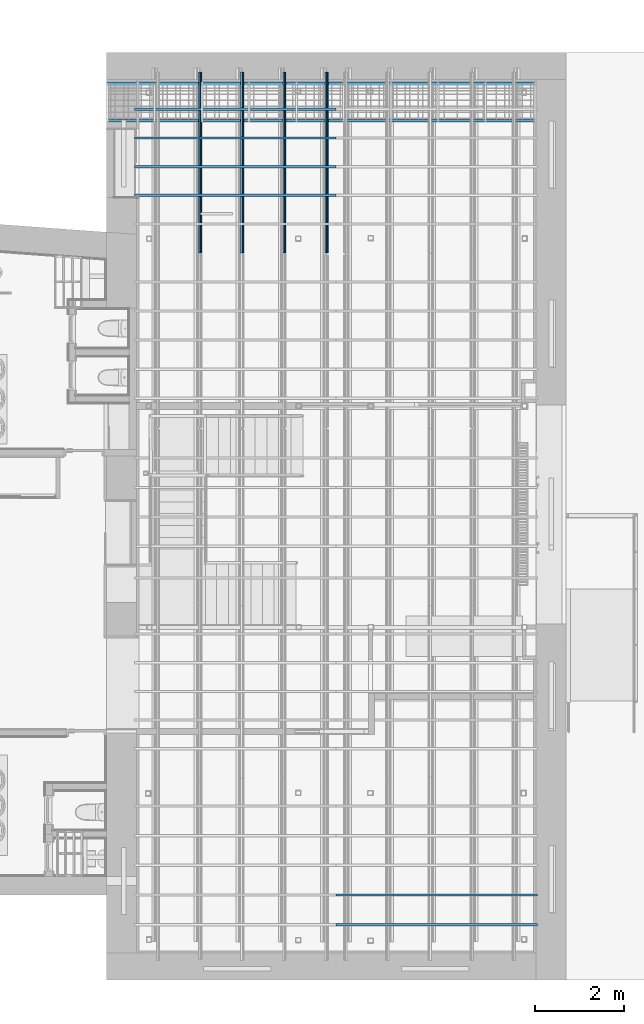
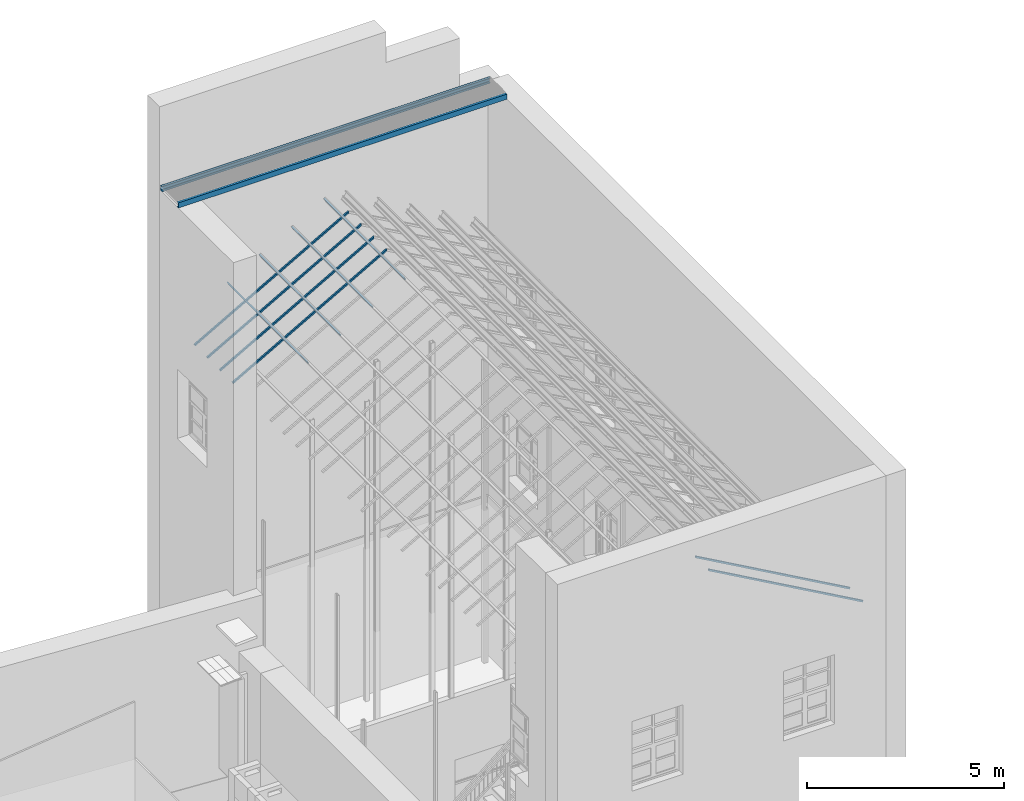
# One storey, part 22 of 75: 12 beams.
"""IFC2X3 building model written with IfcOpenShell, lengths in metres."""

from ifc_helpers import new_model, entity, si_unit, converted_unit, derived_unit, direction, frame, frame_2d, origin, origin_2d_with_axis, place, context, subcontext, project, spatial, polyline, circle_curve, parameter, trimmed, segment, composite_curve, rectangle, outline, extrude, clip, halfspace, material, type_object, element, save


model = new_model("IFC2X3")

# Units and contexts
model_context = context("Model", 3, precision=1e-05, world=origin(), true_north=direction((6.12303176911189e-17, 1.0)))
body_context = subcontext(model_context, "Body", "Model", "MODEL_VIEW")
ifc_project = project(units=[si_unit("LENGTHUNIT", "METRE"), si_unit("AREAUNIT", "SQUARE_METRE"), si_unit("VOLUMEUNIT", "CUBIC_METRE"), converted_unit("PLANEANGLEUNIT", "DEGREE", entity("IfcRatioMeasure", 0.0174532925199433), si_unit("PLANEANGLEUNIT", "RADIAN"), dimensions=[0, 0, 0, 0, 0, 0, 0]), si_unit("MASSUNIT", "GRAM", prefix="KILO"), derived_unit("MASSDENSITYUNIT", [(si_unit("MASSUNIT", "GRAM", prefix="KILO"), 1), (si_unit("LENGTHUNIT", "METRE"), -3)]), derived_unit("MOMENTOFINERTIAUNIT", [(si_unit("LENGTHUNIT", "METRE"), 4)]), si_unit("TIMEUNIT", "SECOND"), si_unit("FREQUENCYUNIT", "HERTZ"), si_unit("THERMODYNAMICTEMPERATUREUNIT", "DEGREE_CELSIUS"), derived_unit("THERMALTRANSMITTANCEUNIT", [(si_unit("MASSUNIT", "GRAM", prefix="KILO"), 1), (si_unit("THERMODYNAMICTEMPERATUREUNIT", "KELVIN"), -1), (si_unit("TIMEUNIT", "SECOND"), -3)]), derived_unit("VOLUMETRICFLOWRATEUNIT", [(si_unit("LENGTHUNIT", "METRE"), 3), (si_unit("TIMEUNIT", "SECOND"), -1)]), si_unit("ELECTRICCURRENTUNIT", "AMPERE"), si_unit("ELECTRICVOLTAGEUNIT", "VOLT"), si_unit("POWERUNIT", "WATT"), si_unit("FORCEUNIT", "NEWTON", prefix="KILO"), si_unit("ILLUMINANCEUNIT", "LUX"), si_unit("LUMINOUSFLUXUNIT", "LUMEN"), si_unit("LUMINOUSINTENSITYUNIT", "CANDELA"), derived_unit("USERDEFINED", [(si_unit("MASSUNIT", "GRAM", prefix="KILO"), -1), (si_unit("LENGTHUNIT", "METRE"), -2), (si_unit("TIMEUNIT", "SECOND"), 3), (si_unit("LUMINOUSFLUXUNIT", "LUMEN"), 1)]), derived_unit("LINEARVELOCITYUNIT", [(si_unit("LENGTHUNIT", "METRE"), 1), (si_unit("TIMEUNIT", "SECOND"), -1)]), si_unit("PRESSUREUNIT", "PASCAL"), derived_unit("USERDEFINED", [(si_unit("LENGTHUNIT", "METRE"), -2), (si_unit("MASSUNIT", "GRAM", prefix="KILO"), 1), (si_unit("TIMEUNIT", "SECOND"), -2)]), derived_unit("LINEARFORCEUNIT", [(si_unit("MASSUNIT", "GRAM", prefix="KILO"), 1), (si_unit("LENGTHUNIT", "METRE"), 1), (si_unit("TIMEUNIT", "SECOND"), -2), (si_unit("LENGTHUNIT", "METRE"), -1)]), derived_unit("PLANARFORCEUNIT", [(si_unit("MASSUNIT", "GRAM", prefix="KILO"), 1), (si_unit("LENGTHUNIT", "METRE"), 1), (si_unit("TIMEUNIT", "SECOND"), -2), (si_unit("LENGTHUNIT", "METRE"), -2)])], contexts=[model_context])

# Site, building, storey
site_placement = place(None, origin())
site = spatial("IfcSite", under=ifc_project, at=site_placement, Name="Superficie", CompositionType="ELEMENT")
building_placement = place(site_placement, origin())
building = spatial("IfcBuilding", under=site, at=building_placement, Name="Telegestiones", CompositionType="ELEMENT")
storey_placement = place(building_placement, origin())
storey = spatial("IfcBuildingStorey", under=building, at=storey_placement, Name="Nivel 0_NPT", CompositionType="ELEMENT", Elevation=0.0)

# Beams
ifc_material_1 = material(Name="Metal - Acero - 345 MPa")
beam_type_1 = type_object("IfcBeamType", Name="IPN - Secciones en I con alas cónicas:IPN 80", PredefinedType="NOTDEFINED")
beam_1_placement = place(storey_placement, frame((10.2618424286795, 9.84680722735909, 15.6110271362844), z_axis=(0.0, 0.0, 1.0), x_axis=(0.0, 1.0, 0.0)))
element("IfcBeam", 1, at=beam_1_placement, inside=storey, type_object=beam_type_1, material=ifc_material_1, Name="IPN - Secciones en I con alas cónicas:IPN 80", ObjectType="IPN - Secciones en I con alas cónicas:IPN 80", context=body_context, shape_type="SweptSolid", body=[
    extrude(outline(composite_curve([segment(polyline([(-0.0209999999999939, -0.040000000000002), (0.0210000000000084, -0.040000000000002)]), True, "CONTINUOUS"), segment(polyline([(0.0210000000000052, -0.0399999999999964), (0.0210000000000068, -0.037570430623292)]), True, "CONTINUOUS"), segment(trimmed(circle_curve(frame_2d((0.0187000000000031, -0.0375704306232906), x_axis=(1.0, 0.0)), 0.00230000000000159), [parameter(0.0)], [parameter(82.0303896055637)], True, "PARAMETER"), True, "CONTINUOUS"), segment(polyline([(0.0190188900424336, -0.0352926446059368), (0.00530927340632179, -0.0333732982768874)]), True, "CONTINUOUS"), segment(trimmed(circle_curve(frame_2d((0.00585000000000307, -0.0295109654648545), x_axis=(-0.138647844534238, -0.990341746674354)), 0.0038999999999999), [parameter(277.969610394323)], [parameter(0.0)], True, "PARAMETER"), False, "CONTINUOUS"), segment(polyline([(0.00195000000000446, -0.0295109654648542), (0.00194999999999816, 0.0295109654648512)]), True, "CONTINUOUS"), segment(trimmed(circle_curve(frame_2d((0.0058499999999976, 0.0295109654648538), x_axis=(-1.0, 0.0)), 0.00390000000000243), [parameter(277.969610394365)], [parameter(0.0)], True, "PARAMETER"), False, "CONTINUOUS"), segment(polyline([(0.0053092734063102, 0.0333732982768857), (0.0190188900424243, 0.0352926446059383)]), True, "CONTINUOUS"), segment(trimmed(circle_curve(frame_2d((0.0186999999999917, 0.0375704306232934), x_axis=(0.138647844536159, -0.990341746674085)), 0.00230000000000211), [parameter(0.0)], [parameter(82.0303896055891)], True, "PARAMETER"), True, "CONTINUOUS"), segment(polyline([(0.0209999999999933, 0.0375704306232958), (0.020999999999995, 0.0400000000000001)]), True, "CONTINUOUS"), segment(polyline([(0.0209999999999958, 0.0400000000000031), (-0.0210000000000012, 0.0399999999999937)]), True, "CONTINUOUS"), segment(polyline([(-0.0210000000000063, 0.0399999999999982), (-0.0210000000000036, 0.0375704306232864)]), True, "CONTINUOUS"), segment(trimmed(circle_curve(frame_2d((-0.0187000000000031, 0.0375704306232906), x_axis=(-1.0, 0.0)), 0.00230000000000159), [parameter(0.0)], [parameter(82.0303896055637)], True, "PARAMETER"), True, "CONTINUOUS"), segment(polyline([(-0.0190188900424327, 0.0352926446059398), (-0.00530927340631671, 0.0333732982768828)]), True, "CONTINUOUS"), segment(trimmed(circle_curve(frame_2d((-0.00585000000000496, 0.0295109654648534), x_axis=(0.138647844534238, 0.990341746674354)), 0.0038999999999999), [parameter(277.969610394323)], [parameter(0.0)], True, "PARAMETER"), False, "CONTINUOUS"), segment(polyline([(-0.00195000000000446, 0.0295109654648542), (-0.00194999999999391, -0.0295109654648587)]), True, "CONTINUOUS"), segment(trimmed(circle_curve(frame_2d((-0.00584999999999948, -0.0295109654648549), x_axis=(1.0, 0.0)), 0.00390000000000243), [parameter(277.969610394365)], [parameter(0.0)], True, "PARAMETER"), False, "CONTINUOUS"), segment(polyline([(-0.00530927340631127, -0.0333732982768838), (-0.0190188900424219, -0.0352926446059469)]), True, "CONTINUOUS"), segment(trimmed(circle_curve(frame_2d((-0.0186999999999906, -0.0375704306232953), x_axis=(-0.138647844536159, 0.990341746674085)), 0.00230000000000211), [parameter(0.0)], [parameter(82.0303896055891)], True, "PARAMETER"), True, "CONTINUOUS"), segment(polyline([(-0.0209999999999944, -0.0375704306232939), (-0.0209999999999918, -0.0400000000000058)]), True, "CONTINUOUS")], self_intersect=False)), frame((0.013000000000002, -0.0245925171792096, -0.0435339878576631), z_axis=(1.0, 0.0, 0.0), x_axis=(0.0, -0.870679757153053, 0.491850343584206)), (0.0, 0.0, 1.0), 4.05180000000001),
])
beam_2_placement = place(storey_placement, frame((9.31797115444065, 9.84680722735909, 15.0778306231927), z_axis=(0.0, 0.0, 1.0), x_axis=(0.0, 1.0, 0.0)))
element("IfcBeam", 2, at=beam_2_placement, inside=storey, type_object=beam_type_1, material=ifc_material_1, Name="IPN - Secciones en I con alas cónicas:IPN 80", ObjectType="IPN - Secciones en I con alas cónicas:IPN 80", context=body_context, shape_type="SweptSolid", body=[
    extrude(outline(composite_curve([segment(polyline([(-0.0209999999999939, -0.040000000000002), (0.0210000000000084, -0.040000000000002)]), True, "CONTINUOUS"), segment(polyline([(0.0210000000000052, -0.0399999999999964), (0.0210000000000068, -0.037570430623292)]), True, "CONTINUOUS"), segment(trimmed(circle_curve(frame_2d((0.0187000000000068, -0.0375704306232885), x_axis=(1.0, 0.0)), 0.00229999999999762), [parameter(0.0)], [parameter(82.0303896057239)], True, "PARAMETER"), True, "CONTINUOUS"), segment(polyline([(0.0190188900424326, -0.0352926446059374), (0.00530927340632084, -0.0333732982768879)]), True, "CONTINUOUS"), segment(trimmed(circle_curve(frame_2d((0.00585000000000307, -0.0295109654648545), x_axis=(-0.138647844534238, -0.990341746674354)), 0.00389999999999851), [parameter(277.969610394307)], [parameter(0.0)], True, "PARAMETER"), False, "CONTINUOUS"), segment(polyline([(0.00195000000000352, -0.0295109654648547), (0.00194999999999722, 0.0295109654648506)]), True, "CONTINUOUS"), segment(trimmed(circle_curve(frame_2d((0.00584999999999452, 0.0295109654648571), x_axis=(-1.0, 0.0)), 0.00389999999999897), [parameter(277.969610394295)], [parameter(0.0)], True, "PARAMETER"), False, "CONTINUOUS"), segment(polyline([(0.0053092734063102, 0.0333732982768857), (0.0190188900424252, 0.0352926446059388)]), True, "CONTINUOUS"), segment(trimmed(circle_curve(frame_2d((0.0186999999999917, 0.0375704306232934), x_axis=(0.138647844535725, -0.990341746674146)), 0.00230000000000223), [parameter(0.0)], [parameter(82.0303896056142)], True, "PARAMETER"), True, "CONTINUOUS"), segment(polyline([(0.0209999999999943, 0.0375704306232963), (0.0209999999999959, 0.0400000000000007)]), True, "CONTINUOUS"), segment(polyline([(0.0209999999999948, 0.0400000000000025), (-0.0210000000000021, 0.0399999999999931)]), True, "CONTINUOUS"), segment(polyline([(-0.0210000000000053, 0.0399999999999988), (-0.0210000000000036, 0.0375704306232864)]), True, "CONTINUOUS"), segment(trimmed(circle_curve(frame_2d((-0.0187000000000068, 0.0375704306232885), x_axis=(-1.0, 0.0)), 0.00229999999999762), [parameter(0.0)], [parameter(82.0303896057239)], True, "PARAMETER"), True, "CONTINUOUS"), segment(polyline([(-0.0190188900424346, 0.0352926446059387), (-0.00530927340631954, 0.0333732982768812)]), True, "CONTINUOUS"), segment(trimmed(circle_curve(frame_2d((-0.00585000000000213, 0.029510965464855), x_axis=(0.138647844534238, 0.990341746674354)), 0.00389999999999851), [parameter(277.969610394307)], [parameter(0.0)], True, "PARAMETER"), False, "CONTINUOUS"), segment(polyline([(-0.00195000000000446, 0.0295109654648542), (-0.00194999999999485, -0.0295109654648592)]), True, "CONTINUOUS"), segment(trimmed(circle_curve(frame_2d((-0.00584999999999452, -0.0295109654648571), x_axis=(1.0, 0.0)), 0.00389999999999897), [parameter(277.969610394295)], [parameter(0.0)], True, "PARAMETER"), False, "CONTINUOUS"), segment(polyline([(-0.00530927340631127, -0.0333732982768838), (-0.0190188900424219, -0.0352926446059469)]), True, "CONTINUOUS"), segment(trimmed(circle_curve(frame_2d((-0.0186999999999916, -0.0375704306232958), x_axis=(-0.138647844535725, 0.990341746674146)), 0.00230000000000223), [parameter(0.0)], [parameter(82.0303896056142)], True, "PARAMETER"), True, "CONTINUOUS"), segment(polyline([(-0.0209999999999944, -0.0375704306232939), (-0.0209999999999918, -0.0400000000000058)]), True, "CONTINUOUS")], self_intersect=False)), frame((0.0129999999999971, -0.0245925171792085, -0.0435339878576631), z_axis=(1.0, 0.0, 0.0), x_axis=(0.0, -0.870679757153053, 0.491850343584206)), (0.0, 0.0, 1.0), 4.05180000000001),
])
beam_3_placement = place(storey_placement, frame((8.37409988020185, 9.84680722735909, 14.5446341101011), z_axis=(0.0, 0.0, 1.0), x_axis=(0.0, 1.0, 0.0)))
element("IfcBeam", 3, at=beam_3_placement, inside=storey, type_object=beam_type_1, material=ifc_material_1, Name="IPN - Secciones en I con alas cónicas:IPN 80", ObjectType="IPN - Secciones en I con alas cónicas:IPN 80", context=body_context, shape_type="SweptSolid", body=[
    extrude(outline(composite_curve([segment(polyline([(-0.0209999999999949, -0.0400000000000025), (0.0210000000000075, -0.0400000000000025)]), True, "CONTINUOUS"), segment(polyline([(0.0210000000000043, -0.0399999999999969), (0.0210000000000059, -0.0375704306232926)]), True, "CONTINUOUS"), segment(trimmed(circle_curve(frame_2d((0.0187000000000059, -0.037570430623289), x_axis=(1.0, 0.0)), 0.00229999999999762), [parameter(0.0)], [parameter(82.0303896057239)], True, "PARAMETER"), True, "CONTINUOUS"), segment(polyline([(0.0190188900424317, -0.0352926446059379), (0.0053092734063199, -0.0333732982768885)]), True, "CONTINUOUS"), segment(trimmed(circle_curve(frame_2d((0.00585000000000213, -0.029510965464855), x_axis=(-0.138647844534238, -0.990341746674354)), 0.00389999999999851), [parameter(277.969610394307)], [parameter(0.0)], True, "PARAMETER"), False, "CONTINUOUS"), segment(polyline([(0.00195000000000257, -0.0295109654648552), (0.00194999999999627, 0.0295109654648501)]), True, "CONTINUOUS"), segment(trimmed(circle_curve(frame_2d((0.00584999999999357, 0.0295109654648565), x_axis=(-1.0, 0.0)), 0.00389999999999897), [parameter(277.969610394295)], [parameter(0.0)], True, "PARAMETER"), False, "CONTINUOUS"), segment(polyline([(0.00530927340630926, 0.0333732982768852), (0.0190188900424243, 0.0352926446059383)]), True, "CONTINUOUS"), segment(trimmed(circle_curve(frame_2d((0.0186999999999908, 0.0375704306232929), x_axis=(0.138647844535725, -0.990341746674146)), 0.00230000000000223), [parameter(0.0)], [parameter(82.0303896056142)], True, "PARAMETER"), True, "CONTINUOUS"), segment(polyline([(0.0209999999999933, 0.0375704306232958), (0.020999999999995, 0.0400000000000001)]), True, "CONTINUOUS"), segment(polyline([(0.0209999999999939, 0.040000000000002), (-0.0210000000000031, 0.0399999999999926)]), True, "CONTINUOUS"), segment(polyline([(-0.0210000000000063, 0.0399999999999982), (-0.0210000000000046, 0.0375704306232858)]), True, "CONTINUOUS"), segment(trimmed(circle_curve(frame_2d((-0.0187000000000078, 0.0375704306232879), x_axis=(-1.0, 0.0)), 0.00229999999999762), [parameter(0.0)], [parameter(82.0303896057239)], True, "PARAMETER"), True, "CONTINUOUS"), segment(polyline([(-0.0190188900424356, 0.0352926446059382), (-0.00530927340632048, 0.0333732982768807)]), True, "CONTINUOUS"), segment(trimmed(circle_curve(frame_2d((-0.00585000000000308, 0.0295109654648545), x_axis=(0.138647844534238, 0.990341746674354)), 0.00389999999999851), [parameter(277.969610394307)], [parameter(0.0)], True, "PARAMETER"), False, "CONTINUOUS"), segment(polyline([(-0.0019500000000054, 0.0295109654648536), (-0.00194999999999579, -0.0295109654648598)]), True, "CONTINUOUS"), segment(trimmed(circle_curve(frame_2d((-0.00584999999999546, -0.0295109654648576), x_axis=(1.0, 0.0)), 0.00389999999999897), [parameter(277.969610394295)], [parameter(0.0)], True, "PARAMETER"), False, "CONTINUOUS"), segment(polyline([(-0.00530927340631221, -0.0333732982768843), (-0.0190188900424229, -0.0352926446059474)]), True, "CONTINUOUS"), segment(trimmed(circle_curve(frame_2d((-0.0186999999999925, -0.0375704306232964), x_axis=(-0.138647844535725, 0.990341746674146)), 0.00230000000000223), [parameter(0.0)], [parameter(82.0303896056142)], True, "PARAMETER"), True, "CONTINUOUS"), segment(polyline([(-0.0209999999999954, -0.0375704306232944), (-0.0209999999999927, -0.0400000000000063)]), True, "CONTINUOUS")], self_intersect=False)), frame((0.0129999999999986, -0.0245925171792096, -0.0435339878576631), z_axis=(1.0, 0.0, 0.0), x_axis=(0.0, -0.870679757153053, 0.491850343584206)), (0.0, 0.0, 1.0), 4.05180000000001),
])
beam_4_placement = place(storey_placement, frame((7.43022860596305, 9.84680722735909, 14.0114375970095), z_axis=(0.0, 0.0, 1.0), x_axis=(0.0, 1.0, 0.0)))
element("IfcBeam", 4, at=beam_4_placement, inside=storey, type_object=beam_type_1, material=ifc_material_1, Name="IPN - Secciones en I con alas cónicas:IPN 80", ObjectType="IPN - Secciones en I con alas cónicas:IPN 80", context=body_context, shape_type="SweptSolid", body=[
    extrude(outline(composite_curve([segment(polyline([(-0.0209999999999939, -0.040000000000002), (0.0210000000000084, -0.040000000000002)]), True, "CONTINUOUS"), segment(polyline([(0.0210000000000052, -0.0399999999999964), (0.0210000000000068, -0.037570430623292)]), True, "CONTINUOUS"), segment(trimmed(circle_curve(frame_2d((0.0187000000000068, -0.0375704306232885), x_axis=(1.0, 0.0)), 0.00229999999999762), [parameter(0.0)], [parameter(82.0303896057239)], True, "PARAMETER"), True, "CONTINUOUS"), segment(polyline([(0.0190188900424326, -0.0352926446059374), (0.00530927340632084, -0.0333732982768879)]), True, "CONTINUOUS"), segment(trimmed(circle_curve(frame_2d((0.00585000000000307, -0.0295109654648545), x_axis=(-0.138647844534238, -0.990341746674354)), 0.00389999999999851), [parameter(277.969610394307)], [parameter(0.0)], True, "PARAMETER"), False, "CONTINUOUS"), segment(polyline([(0.00195000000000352, -0.0295109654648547), (0.00194999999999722, 0.0295109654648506)]), True, "CONTINUOUS"), segment(trimmed(circle_curve(frame_2d((0.00584999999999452, 0.0295109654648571), x_axis=(-1.0, 0.0)), 0.00389999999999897), [parameter(277.969610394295)], [parameter(0.0)], True, "PARAMETER"), False, "CONTINUOUS"), segment(polyline([(0.0053092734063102, 0.0333732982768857), (0.0190188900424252, 0.0352926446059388)]), True, "CONTINUOUS"), segment(trimmed(circle_curve(frame_2d((0.0186999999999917, 0.0375704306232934), x_axis=(0.138647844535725, -0.990341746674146)), 0.00230000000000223), [parameter(0.0)], [parameter(82.0303896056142)], True, "PARAMETER"), True, "CONTINUOUS"), segment(polyline([(0.0209999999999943, 0.0375704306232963), (0.0209999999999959, 0.0400000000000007)]), True, "CONTINUOUS"), segment(polyline([(0.0209999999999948, 0.0400000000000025), (-0.0210000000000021, 0.0399999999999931)]), True, "CONTINUOUS"), segment(polyline([(-0.0210000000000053, 0.0399999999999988), (-0.0210000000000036, 0.0375704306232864)]), True, "CONTINUOUS"), segment(trimmed(circle_curve(frame_2d((-0.0187000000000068, 0.0375704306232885), x_axis=(-1.0, 0.0)), 0.00229999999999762), [parameter(0.0)], [parameter(82.0303896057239)], True, "PARAMETER"), True, "CONTINUOUS"), segment(polyline([(-0.0190188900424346, 0.0352926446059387), (-0.00530927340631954, 0.0333732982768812)]), True, "CONTINUOUS"), segment(trimmed(circle_curve(frame_2d((-0.00585000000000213, 0.029510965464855), x_axis=(0.138647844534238, 0.990341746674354)), 0.00389999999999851), [parameter(277.969610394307)], [parameter(0.0)], True, "PARAMETER"), False, "CONTINUOUS"), segment(polyline([(-0.00195000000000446, 0.0295109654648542), (-0.00194999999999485, -0.0295109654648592)]), True, "CONTINUOUS"), segment(trimmed(circle_curve(frame_2d((-0.00584999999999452, -0.0295109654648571), x_axis=(1.0, 0.0)), 0.00389999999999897), [parameter(277.969610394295)], [parameter(0.0)], True, "PARAMETER"), False, "CONTINUOUS"), segment(polyline([(-0.00530927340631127, -0.0333732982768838), (-0.0190188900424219, -0.0352926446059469)]), True, "CONTINUOUS"), segment(trimmed(circle_curve(frame_2d((-0.0186999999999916, -0.0375704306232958), x_axis=(-0.138647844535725, 0.990341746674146)), 0.00230000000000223), [parameter(0.0)], [parameter(82.0303896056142)], True, "PARAMETER"), True, "CONTINUOUS"), segment(polyline([(-0.0209999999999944, -0.0375704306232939), (-0.0209999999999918, -0.0400000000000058)]), True, "CONTINUOUS")], self_intersect=False)), frame((0.0130000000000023, -0.0245925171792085, -0.0435339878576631), z_axis=(1.0, 0.0, 0.0), x_axis=(0.0, -0.870679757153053, 0.491850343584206)), (0.0, 0.0, 1.0), 4.05180000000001),
])
beam_type_2 = type_object("IfcBeamType", Name="U-Canales de ala paralela:UPE160", PredefinedType="NOTDEFINED")
beam_5_placement = place(storey_placement, frame((5.35428977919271, 13.6634072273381, 17.7)))
element("IfcBeam", 5, at=beam_5_placement, inside=storey, type_object=beam_type_2, material=ifc_material_1, Name="U-Canales de ala paralela:UPE160", ObjectType="U-Canales de ala paralela:UPE160", context=body_context, shape_type="SweptSolid", body=[
    extrude(outline(composite_curve([segment(polyline([(-0.0800000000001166, -0.0367999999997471), (-0.0705000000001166, -0.0367999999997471)]), True, "CONTINUOUS"), segment(polyline([(-0.0705000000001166, -0.0367999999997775), (-0.0704999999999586, 0.0127000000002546)]), True, "CONTINUOUS"), segment(trimmed(circle_curve(frame_2d((-0.0554999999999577, 0.0127000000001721), x_axis=(-1.0, 0.0)), 0.0150000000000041), [parameter(270.000000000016)], [parameter(0.0)], True, "PARAMETER"), False, "CONTINUOUS"), segment(polyline([(-0.055499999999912, 0.0277000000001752), (0.0555000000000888, 0.0276999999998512)]), True, "CONTINUOUS"), segment(trimmed(circle_curve(frame_2d((0.0555000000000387, 0.0126999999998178), x_axis=(0.0, 1.0)), 0.0150000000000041), [parameter(270.000000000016)], [parameter(0.0)], True, "PARAMETER"), False, "CONTINUOUS"), segment(polyline([(0.0705000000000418, 0.0126999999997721), (0.0704999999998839, -0.0368000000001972)]), True, "CONTINUOUS"), segment(polyline([(0.0704999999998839, -0.0368000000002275), (0.0799999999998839, -0.0368000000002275)]), True, "CONTINUOUS"), segment(polyline([(0.0799999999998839, -0.0368000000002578), (0.0800000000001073, 0.0331999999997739)]), True, "CONTINUOUS"), segment(polyline([(0.0800000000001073, 0.0331999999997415), (-0.0799999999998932, 0.0332000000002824)]), True, "CONTINUOUS"), segment(polyline([(-0.0799999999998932, 0.0332000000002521), (-0.0800000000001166, -0.0367999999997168)]), True, "CONTINUOUS")], self_intersect=False)), frame((0.000261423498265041, -0.0105000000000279, 0.0799999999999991), z_axis=(1.0, 0.0, 0.0), x_axis=(0.0, 0.0, -1.0)), (0.0, 0.0, 1.0), 9.60999999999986),
])
beam_6_placement = place(storey_placement, frame((5.35428977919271, 12.8084072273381, 17.7)))
element("IfcBeam", 6, at=beam_6_placement, inside=storey, type_object=beam_type_2, material=ifc_material_1, Name="U-Canales de ala paralela:UPE160", ObjectType="U-Canales de ala paralela:UPE160", context=body_context, shape_type="SweptSolid", body=[
    extrude(outline(composite_curve([segment(polyline([(-0.0799999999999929, -0.0332000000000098), (0.0800000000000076, -0.0332000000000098)]), True, "CONTINUOUS"), segment(polyline([(0.0800000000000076, -0.0331999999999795), (0.0799999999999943, 0.0367999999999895)]), True, "CONTINUOUS"), segment(polyline([(0.0799999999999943, 0.0368000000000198), (0.0704999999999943, 0.0367999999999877)]), True, "CONTINUOUS"), segment(polyline([(0.0704999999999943, 0.0368000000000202), (0.0705000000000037, -0.0127000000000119)]), True, "CONTINUOUS"), segment(trimmed(circle_curve(frame_2d((0.0555000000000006, -0.0127000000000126), x_axis=(1.0, 0.0)), 0.0150000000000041), [parameter(270.000000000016)], [parameter(0.0)], True, "PARAMETER"), False, "CONTINUOUS"), segment(polyline([(0.0555000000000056, -0.0276999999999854), (-0.0554999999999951, -0.0277000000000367)]), True, "CONTINUOUS"), segment(trimmed(circle_curve(frame_2d((-0.0554999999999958, -0.0127000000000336), x_axis=(0.0, -1.0)), 0.0150000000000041), [parameter(270.000000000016)], [parameter(0.0)], True, "PARAMETER"), False, "CONTINUOUS"), segment(polyline([(-0.0704999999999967, -0.0127000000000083), (-0.0705000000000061, 0.036799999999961)]), True, "CONTINUOUS"), segment(polyline([(-0.0705000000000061, 0.0367999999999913), (-0.0800000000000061, 0.0367999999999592)]), True, "CONTINUOUS"), segment(polyline([(-0.0800000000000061, 0.0367999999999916), (-0.0799999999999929, -0.0332000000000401)]), True, "CONTINUOUS")], self_intersect=False)), frame((0.0, 0.0104999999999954, 0.0799999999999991), z_axis=(1.0, 0.0, 0.0), x_axis=(0.0, 0.0, -1.0)), (0.0, 0.0, 1.0), 9.61074697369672),
])
ifc_material_2 = material(Name="Madera - Madera de construcción")
beam_type_3 = type_object("IfcBeamType", Name="Madera:50x50mm", PredefinedType="NOTDEFINED")
beam_7_placement = place(storey_placement, frame((6.01059937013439, 12.4336072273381, 13.2094835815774), z_axis=(-0.491850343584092, 0.0, 0.870679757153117), x_axis=(0.870679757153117, 0.0, 0.491850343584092)))
element("IfcBeam", 7, at=beam_7_placement, inside=storey, type_object=beam_type_3, material=ifc_material_2, Name="Madera:50x50mm", ObjectType="Madera:50x50mm", context=body_context, shape_type="SweptSolid", body=[
    clip(extrude(rectangle(XDim=0.0500000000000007, YDim=0.0500000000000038, at=frame_2d((-3.36189409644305e-15, 1.08246744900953e-15), x_axis=(1.0, 0.0))), frame((-0.0851437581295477, 0.0, -0.115000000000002), z_axis=(1.0, 0.0, 0.0), x_axis=(0.0, 0.0, -1.0)), (0.0, 0.0, 1.0), 5.18302027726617), halfspace(frame((5.06963132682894, 0.0, -0.139999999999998), z_axis=(0.870679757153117, 0.0, -0.491850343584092), x_axis=(0.0, -1.0, 0.0)), False)),
])
beam_8_placement = place(storey_placement, frame((6.01059937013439, 13.0761072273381, 13.2094835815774), z_axis=(-0.491850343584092, 0.0, 0.870679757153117), x_axis=(0.870679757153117, 0.0, 0.491850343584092)))
element("IfcBeam", 8, at=beam_8_placement, inside=storey, type_object=beam_type_3, material=ifc_material_2, Name="Madera:50x50mm", ObjectType="Madera:50x50mm", context=body_context, shape_type="SweptSolid", body=[
    clip(extrude(rectangle(XDim=0.0500000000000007, YDim=0.0500000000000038, at=frame_2d((2.67147415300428e-16, 1.08246744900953e-15), x_axis=(1.0, 0.0))), frame((-0.0851437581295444, 0.0, -0.115), z_axis=(1.0, 0.0, 0.0), x_axis=(0.0, 0.0, -1.0)), (0.0, 0.0, 1.0), 5.18302027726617), halfspace(frame((5.06963132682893, 0.0, -0.139999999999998), z_axis=(0.870679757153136, 0.0, -0.491850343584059), x_axis=(0.0, -1.0, 0.0)), False)),
])
beam_9_placement = place(storey_placement, frame((6.01059937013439, 11.7911072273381, 13.2094835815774), z_axis=(-0.491850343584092, 0.0, 0.870679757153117), x_axis=(0.870679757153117, 0.0, 0.491850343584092)))
element("IfcBeam", 9, at=beam_9_placement, inside=storey, type_object=beam_type_3, material=ifc_material_2, Name="Madera:50x50mm", ObjectType="Madera:50x50mm", context=body_context, shape_type="SweptSolid", body=[
    clip(extrude(rectangle(XDim=0.0500000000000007, YDim=0.0500000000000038, at=frame_2d((2.67147415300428e-16, 3.24913707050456e-15), x_axis=(1.0, 0.0))), frame((-0.0851437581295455, 0.0, -0.115), z_axis=(1.0, 0.0, 0.0), x_axis=(0.0, 0.0, -1.0)), (0.0, 0.0, 1.0), 5.18302027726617), halfspace(frame((5.06963132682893, 0.0, -0.139999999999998), z_axis=(0.870679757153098, 0.0, -0.491850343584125), x_axis=(0.0, -1.0, 0.0)), False)),
])
beam_10_placement = place(storey_placement, frame((6.01059937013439, 11.1486072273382, 13.2094835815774), z_axis=(-0.491850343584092, 0.0, 0.870679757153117), x_axis=(0.870679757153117, 0.0, 0.491850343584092)))
element("IfcBeam", 10, at=beam_10_placement, inside=storey, type_object=beam_type_3, material=ifc_material_2, Name="Madera:50x50mm", ObjectType="Madera:50x50mm", context=body_context, shape_type="SweptSolid", body=[
    clip(extrude(rectangle(XDim=0.0500000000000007, YDim=0.0500000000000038, at=frame_2d((-9.41954847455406e-16, 1.08246744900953e-15), x_axis=(1.0, 0.0))), frame((-0.0851437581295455, 0.0, -0.115000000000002), z_axis=(1.0, 0.0, 0.0), x_axis=(0.0, 0.0, -1.0)), (0.0, 0.0, 1.0), 5.18302027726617), halfspace(frame((5.06963132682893, 0.0, -0.140000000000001), z_axis=(0.870679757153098, 0.0, -0.491850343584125), x_axis=(0.0, -1.0, 0.0)), False)),
])
beam_11_placement = place(storey_placement, frame((14.9763682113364, -4.50470900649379, 13.2094835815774), z_axis=(0.491850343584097, 0.0, 0.870679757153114), x_axis=(-0.870679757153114, 0.0, 0.491850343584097)))
element("IfcBeam", 11, at=beam_11_placement, inside=storey, type_object=beam_type_3, material=ifc_material_2, Name="Madera:50x50mm", ObjectType="Madera:50x50mm", context=body_context, shape_type="SweptSolid", body=[
    clip(extrude(rectangle(XDim=0.0499999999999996, YDim=0.0500000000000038, at=origin_2d_with_axis()), frame((-0.0851437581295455, 0.0, -0.115000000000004), z_axis=(1.0, 0.0, 0.0), x_axis=(0.0, 0.0, -1.0)), (0.0, 0.0, 1.0), 5.18302027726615), halfspace(frame((5.06963132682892, 0.0, -0.140000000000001), z_axis=(0.870679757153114, 0.0, -0.491850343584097), x_axis=(0.0, -1.0, 0.0)), False)),
])
beam_12_placement = place(storey_placement, frame((14.9763682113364, -5.16803806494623, 13.2094835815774), z_axis=(0.491850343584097, 0.0, 0.870679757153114), x_axis=(-0.870679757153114, 0.0, 0.491850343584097)))
element("IfcBeam", 12, at=beam_12_placement, inside=storey, type_object=beam_type_3, material=ifc_material_2, Name="Madera:50x50mm", ObjectType="Madera:50x50mm", context=body_context, shape_type="SweptSolid", body=[
    clip(extrude(rectangle(XDim=0.0499999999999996, YDim=0.0500000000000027, at=origin_2d_with_axis()), frame((-0.0851437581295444, 0.0, -0.115000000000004), z_axis=(1.0, 0.0, 0.0), x_axis=(0.0, 0.0, -1.0)), (0.0, 0.0, 1.0), 5.18302027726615), halfspace(frame((5.06963132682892, 0.0, -0.140000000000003), z_axis=(0.870679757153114, 0.0, -0.491850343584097), x_axis=(0.0, -1.0, 0.0)), False)),
])

save(model, "model.ifc")
